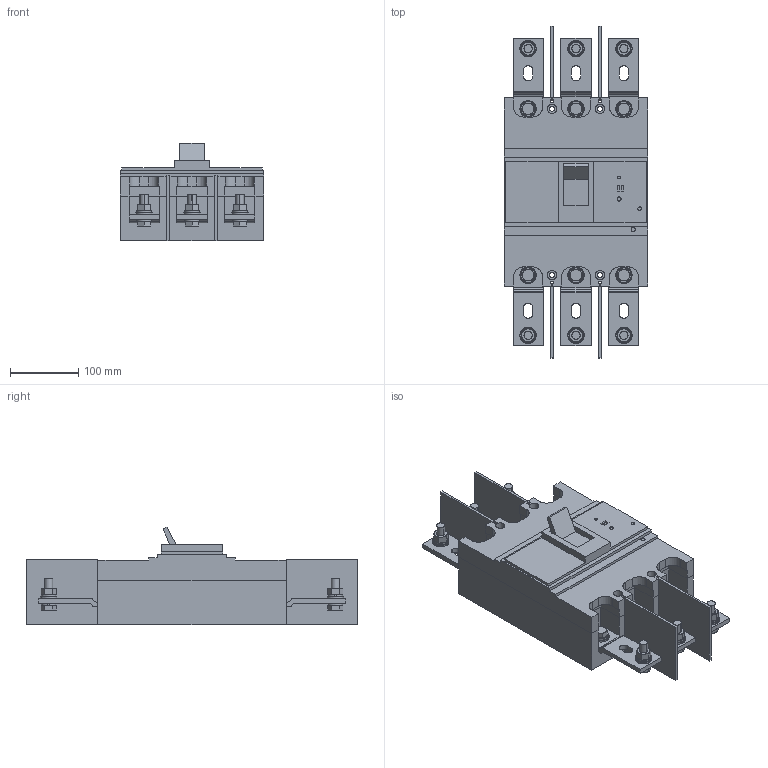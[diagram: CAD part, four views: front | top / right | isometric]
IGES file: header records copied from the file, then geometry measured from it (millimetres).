
Start section: SolidWorks IGES file using analytic representation for surfaces
Bounding box: 210 x 485 x 143.2 mm (x, y, z)
Surface area: 591858.3 mm2 (no closed solid volume)
Topology: 0 solids, 0 shells, 920 faces, 13878 edges, 13878 vertices
Faces by surface type: bspline 552, revolution 368
